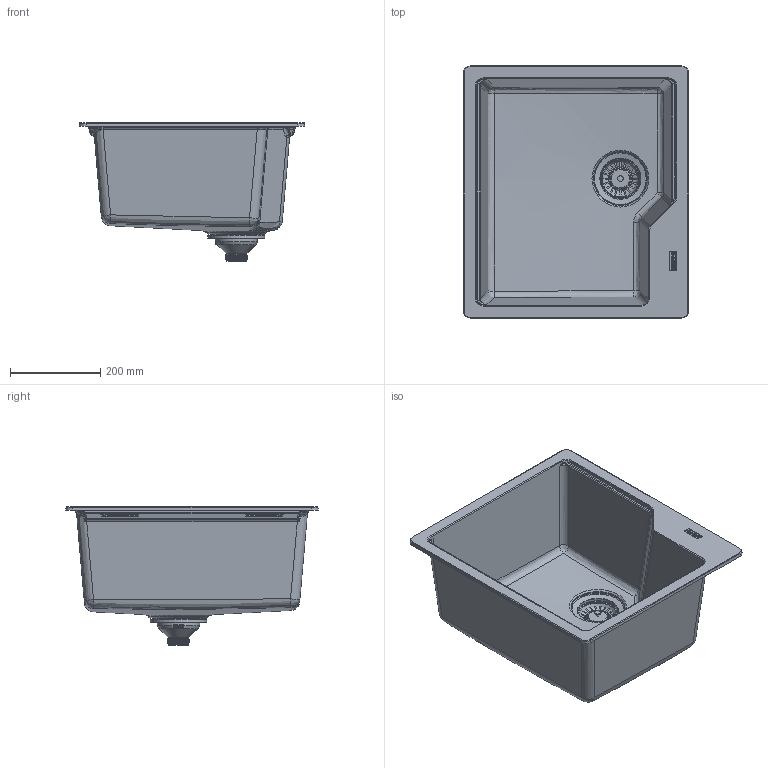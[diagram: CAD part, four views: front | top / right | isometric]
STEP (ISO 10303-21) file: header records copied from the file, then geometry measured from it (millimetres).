
FILE_DESCRIPTION(/* description */ (''),/* implementation_level */ '2;1');
FILE_NAME(/* name */ '3D001_Sinks_Urban_UBG-610-50',/* time_stamp */ '2024-06-28T10:14:37+02:00',/* author */ (''),/* organization */ (''),/* preprocessor_version */ 'ST-DEVELOPER v19.2',/* originating_system */ 'Rhino 8.7',/* authorisation */ '');
FILE_SCHEMA (('CONFIG_CONTROL_DESIGN'));
Length unit declared in the file: millimetre
Products named in the file (2): Document; 20255808_ipt_000
Bounding box: 500 x 560 x 307.16 mm (x, y, z)
Volume: 4875467.9 mm3; surface area: 1305473.8 mm2
Topology: 7 solids, 8 shells, 965 faces, 2760 edges, 1790 vertices
Faces by surface type: plane 575, bspline 229, cylinder 161
Full cylindrical faces by diameter (mm): 4.125 x1, 14.3 x1, 30 x2, 36 x1, 41 x2, 45 x1, 45.5 x1, 84 x1, 119 x1, 126 x1
Entity records: 45381 total; most frequent: CARTESIAN_POINT 24194, ORIENTED_EDGE 5490, EDGE_CURVE 2747, DIRECTION 2310, B_SPLINE_CURVE_WITH_KNOTS 1858, VERTEX_POINT 1790, AXIS2_PLACEMENT_3D 1523, EDGE_LOOP 1012
